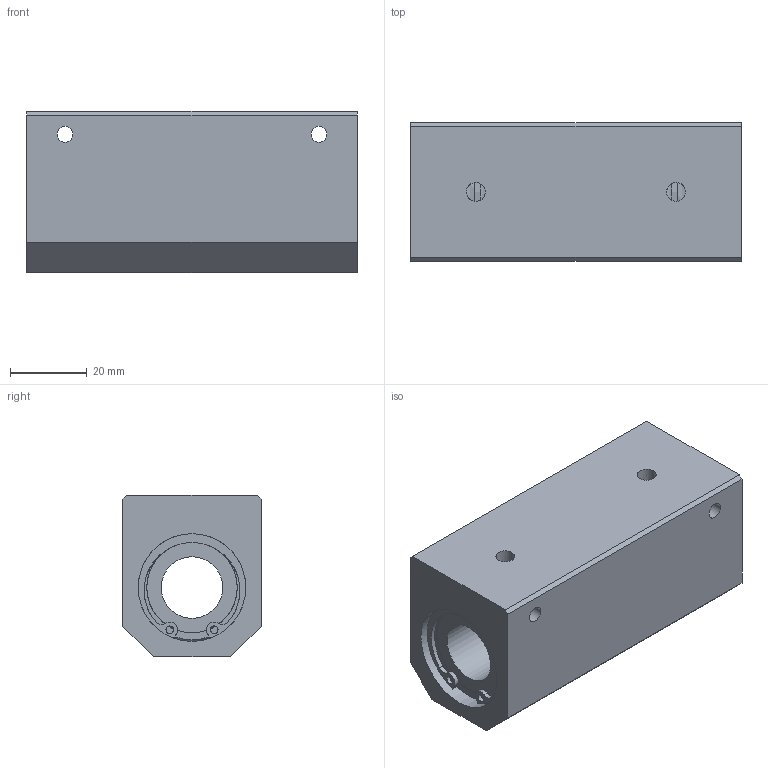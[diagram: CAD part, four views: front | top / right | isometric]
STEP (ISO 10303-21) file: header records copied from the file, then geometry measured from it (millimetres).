
FILE_DESCRIPTION((''),'2;1');
FILE_NAME('D:\製品 (図面)\カタログ用3D\メンテナンスフリー関連\STEP形式\CHW-MF\CHW16MF.stp','2010-06-01T15:32:56',('Tsuchiya'),(''),'Autodesk Inventor 10','Autodesk Inventor 10','');
FILE_SCHEMA(('AUTOMOTIVE_DESIGN { 1 0 10303 214 1 1 1 1 }'));
Length unit declared in the file: millimetre
Products named in the file (1): CHW16MF
Bounding box: 86 x 36 x 42 mm (x, y, z)
Volume: 102478.1 mm3; surface area: 22137.1 mm2
Topology: 1 solids, 1 shells, 77 faces, 201 edges, 124 vertices
Faces by surface type: plane 33, bspline 22, cylinder 20, torus 2
Full cylindrical faces by diameter (mm): 2 x2, 16 x1, 23.5 x2, 26.6 x2, 28 x2
Entity records: 2482 total; most frequent: CARTESIAN_POINT 736, DIRECTION 368, ORIENTED_EDGE 328, EDGE_CURVE 164, AXIS2_PLACEMENT_3D 158, EDGE_LOOP 118, VERTEX_POINT 108, CIRCLE 102
